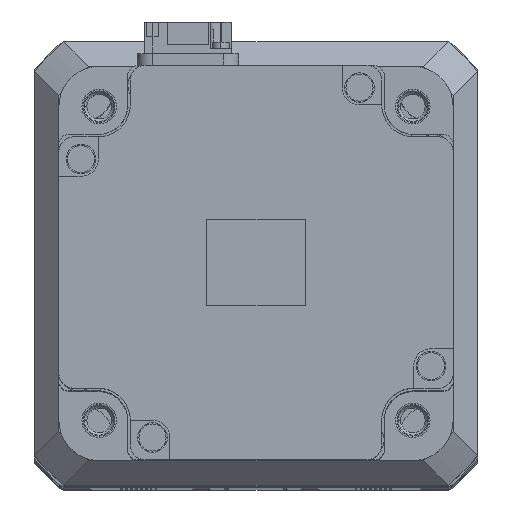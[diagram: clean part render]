
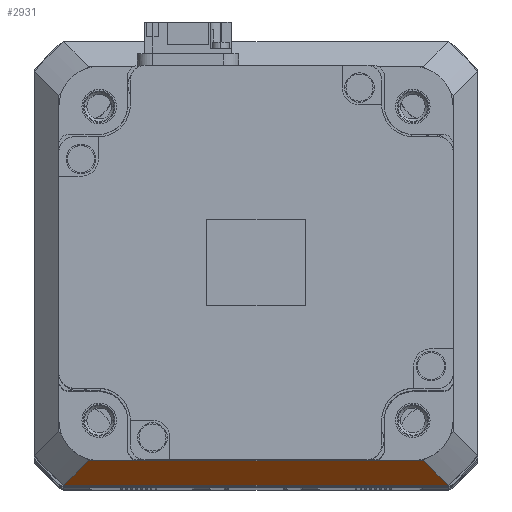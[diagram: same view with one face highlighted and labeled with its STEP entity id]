
A CAD part, top view. The second image highlights one B-rep face of the part: STEP entity #2931.
In plain terms, the highlighted planar face has unit normal (0, -0.707, 0.707).
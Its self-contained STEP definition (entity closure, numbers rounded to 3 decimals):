
#120 = AXIS2_PLACEMENT_3D ( 'NONE', #37344, #45284, #21696 ) ;
#353 = CARTESIAN_POINT ( 'NONE',  ( 39.003, -45., 94. ) ) ;
#557 = VERTEX_POINT ( 'NONE', #353 ) ;
#828 = VERTEX_POINT ( 'NONE', #25754 ) ;
#2593 = ORIENTED_EDGE ( 'NONE', *, *, #45410, .F. ) ;
#2809 = ORIENTED_EDGE ( 'NONE', *, *, #3090, .F. ) ;
#2931 = ADVANCED_FACE ( 'NONE', ( #12707 ), #33376, .F. ) ;
#3090 = EDGE_CURVE ( 'NONE', #24173, #557, #10947, .T. ) ;
#3111 = CARTESIAN_POINT ( 'NONE',  ( 39.003, -45., 94. ) ) ;
#4336 = ORIENTED_EDGE ( 'NONE', *, *, #5045, .F. ) ;
#4357 = LINE ( 'NONE', #10809, #45132 ) ;
#5045 = EDGE_CURVE ( 'NONE', #828, #27389, #24955, .T. ) ;
#10809 = CARTESIAN_POINT ( 'NONE',  ( -24., -45., 94. ) ) ;
#10947 = B_SPLINE_CURVE_WITH_KNOTS ( 'NONE', 3,
 ( #22878, #42500, #26814, #3111 ),
 .UNSPECIFIED., .F., .F.,
 ( 4, 4 ),
 ( 0., 0.009 ),
 .UNSPECIFIED. ) ;
#11545 = VECTOR ( 'NONE', #36169, 1000. ) ;
#12707 = FACE_OUTER_BOUND ( 'NONE', #33028, .T. ) ;
#18076 = CARTESIAN_POINT ( 'NONE',  ( -37.337, -43.333, 95.667 ) ) ;
#20828 = CARTESIAN_POINT ( 'NONE',  ( 34.004, -40., 99. ) ) ;
#21696 = DIRECTION ( 'NONE',  ( 0., -0.707, -0.707 ) ) ;
#22059 = CARTESIAN_POINT ( 'NONE',  ( -34.004, -40., 99. ) ) ;
#22117 = LINE ( 'NONE', #43928, #11545 ) ;
#22764 = DIRECTION ( 'NONE',  ( -1., 0., 0. ) ) ;
#22878 = CARTESIAN_POINT ( 'NONE',  ( 34.004, -40., 99. ) ) ;
#24173 = VERTEX_POINT ( 'NONE', #20828 ) ;
#24955 = B_SPLINE_CURVE_WITH_KNOTS ( 'NONE', 3,
 ( #41693, #18076, #45639, #22059 ),
 .UNSPECIFIED., .F., .F.,
 ( 4, 4 ),
 ( 0., 0.009 ),
 .UNSPECIFIED. ) ;
#25754 = CARTESIAN_POINT ( 'NONE',  ( -39.003, -45., 94. ) ) ;
#26814 = CARTESIAN_POINT ( 'NONE',  ( 37.337, -43.333, 95.667 ) ) ;
#27389 = VERTEX_POINT ( 'NONE', #40414 ) ;
#29400 = EDGE_CURVE ( 'NONE', #27389, #24173, #22117, .T. ) ;
#33028 = EDGE_LOOP ( 'NONE', ( #2809, #40332, #4336, #2593 ) ) ;
#33376 = PLANE ( 'NONE',  #120 ) ;
#36169 = DIRECTION ( 'NONE',  ( 1., 0., 0. ) ) ;
#37344 = CARTESIAN_POINT ( 'NONE',  ( 0., -42.5, 96.5 ) ) ;
#40332 = ORIENTED_EDGE ( 'NONE', *, *, #29400, .F. ) ;
#40414 = CARTESIAN_POINT ( 'NONE',  ( -34.004, -40., 99. ) ) ;
#41693 = CARTESIAN_POINT ( 'NONE',  ( -39.003, -45., 94. ) ) ;
#42500 = CARTESIAN_POINT ( 'NONE',  ( 35.671, -41.666, 97.334 ) ) ;
#43928 = CARTESIAN_POINT ( 'NONE',  ( 0., -40., 99. ) ) ;
#45132 = VECTOR ( 'NONE', #22764, 1000. ) ;
#45284 = DIRECTION ( 'NONE',  ( 0., 0.707, -0.707 ) ) ;
#45410 = EDGE_CURVE ( 'NONE', #557, #828, #4357, .T. ) ;
#45639 = CARTESIAN_POINT ( 'NONE',  ( -35.671, -41.666, 97.334 ) ) ;
